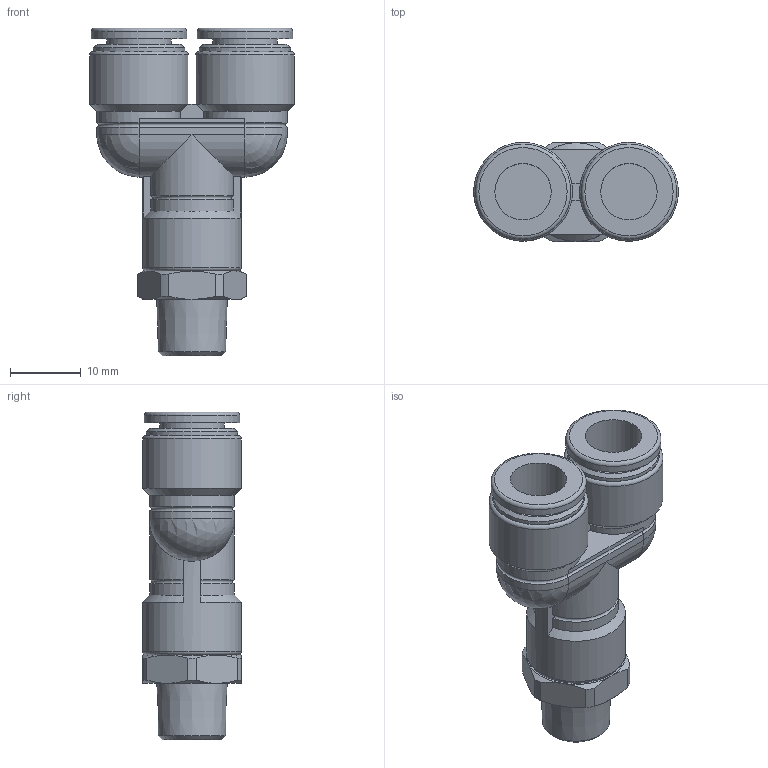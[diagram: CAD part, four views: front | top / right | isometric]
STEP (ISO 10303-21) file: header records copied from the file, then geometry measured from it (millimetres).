
FILE_DESCRIPTION(/* description */ (''),/* implementation_level */ '2;1');
FILE_NAME(/* name */ 'E:\2013年度版　3D-DATA\【02】 TOUCH CONNECTOR FIVE SUS\[04] MALE BRANCH Y\[08] FS8-01MY FS8-01MYW.stp',/* time_stamp */ '2013-08-06T16:56:34+09:00',/* author */ ('takahashi-pc2'),/* organization */ (''),/* preprocessor_version */ 'ST-DEVELOPER v15.2',/* originating_system */ 'Autodesk Inventor 2014',/* authorisation */ '');
FILE_SCHEMA (('AUTOMOTIVE_DESIGN { 1 0 10303 214 3 1 1 }'));
Length unit declared in the file: millimetre
Products named in the file (1): [08] FS8-01MY FS8-01MYW
Bounding box: 29 x 14 x 46.4 mm (x, y, z)
Volume: 7390.1 mm3; surface area: 4249.6 mm2
Topology: 1 solids, 1 shells, 92 faces, 206 edges, 122 vertices
Faces by surface type: plane 32, cylinder 29, cone 20, torus 9, sphere 2
Full cylindrical faces by diameter (mm): 8 x2, 9.1 x2, 12.9 x2, 13.5 x2, 14 x3
Entity records: 2437 total; most frequent: CARTESIAN_POINT 533, DIRECTION 414, ORIENTED_EDGE 358, AXIS2_PLACEMENT_3D 180, EDGE_CURVE 179, EDGE_LOOP 122, VERTEX_POINT 119, ADVANCED_FACE 92
